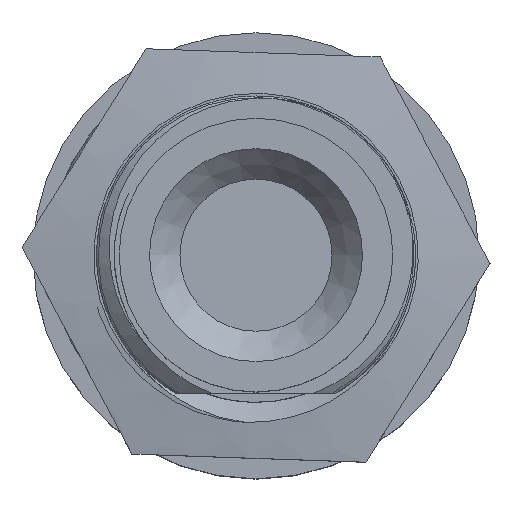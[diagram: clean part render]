
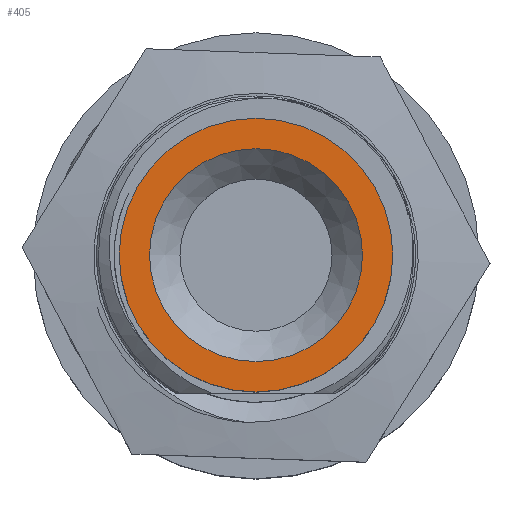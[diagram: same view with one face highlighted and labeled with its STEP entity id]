
A CAD part, top view. The second image highlights one B-rep face of the part: STEP entity #405.
In plain terms, the highlighted planar face has unit normal (0, 0, 1).
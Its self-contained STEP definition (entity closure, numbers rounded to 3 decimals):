
#405 = ADVANCED_FACE( '', ( #785, #786 ), #787, .F. );
#785 = FACE_BOUND( '', #9577, .T. );
#786 = FACE_OUTER_BOUND( '', #9578, .T. );
#787 = PLANE( '', #9579 );
#9577 = EDGE_LOOP( '', ( #14426 ) );
#9578 = EDGE_LOOP( '', ( #14427 ) );
#9579 = AXIS2_PLACEMENT_3D( '', #14428, #14429, #14430 );
#14426 = ORIENTED_EDGE( '', *, *, #14993, .T. );
#14427 = ORIENTED_EDGE( '', *, *, #14999, .F. );
#14428 = CARTESIAN_POINT( '', ( 0., 0., 11.7 ) );
#14429 = DIRECTION( '', ( 0., 0., -1. ) );
#14430 = DIRECTION( '', ( -1., 0., 0. ) );
#14993 = EDGE_CURVE( '', #15507, #15507, #15508, .T. );
#14999 = EDGE_CURVE( '', #15514, #15514, #15515, .T. );
#15507 = VERTEX_POINT( '', #19625 );
#15508 = CIRCLE( '', #19626, 2.625 );
#15514 = VERTEX_POINT( '', #19663 );
#15515 = CIRCLE( '', #19664, 3.375 );
#19625 = CARTESIAN_POINT( '', ( -2.625, 0., 11.7 ) );
#19626 = AXIS2_PLACEMENT_3D( '', #20508, #20509, #20510 );
#19663 = CARTESIAN_POINT( '', ( 0., -3.375, 11.7 ) );
#19664 = AXIS2_PLACEMENT_3D( '', #20513, #20514, #20515 );
#20508 = CARTESIAN_POINT( '', ( 0., 0., 11.7 ) );
#20509 = DIRECTION( '', ( 0., 0., -1. ) );
#20510 = DIRECTION( '', ( -1., 0., 0. ) );
#20513 = CARTESIAN_POINT( '', ( 0., 0., 11.7 ) );
#20514 = DIRECTION( '', ( 0., 0., -1. ) );
#20515 = DIRECTION( '', ( 0., -1., 0. ) );
